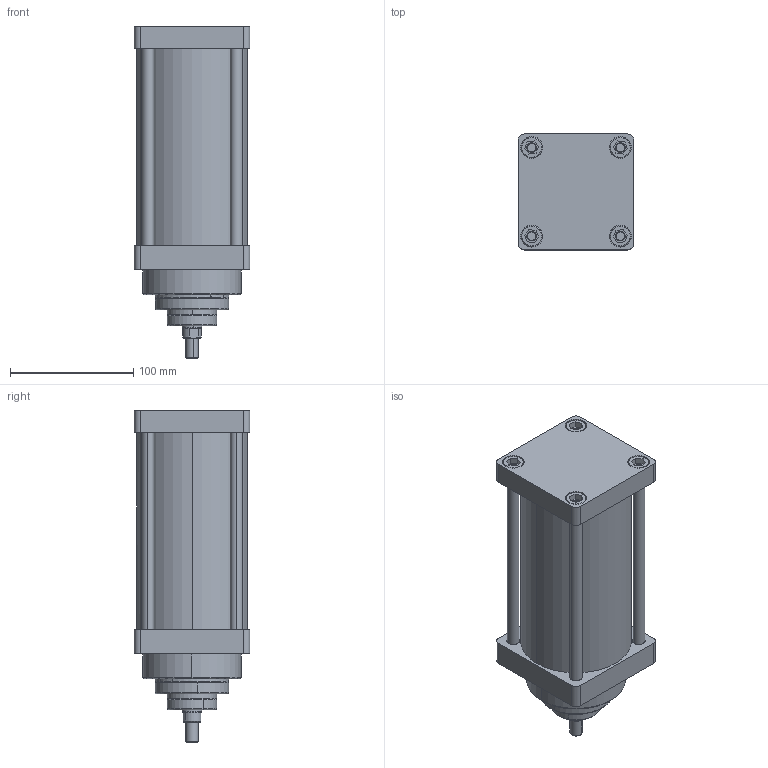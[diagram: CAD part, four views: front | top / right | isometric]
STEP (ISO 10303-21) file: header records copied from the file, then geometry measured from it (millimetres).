
FILE_DESCRIPTION (( 'STEP AP214' ), '1' );
FILE_NAME ('TLSK_3K_80_300.STEP', '2023-01-07T17:05:25', ( '' ), ( '' ), 'SwSTEP 2.0', 'SolidWorks 2021', '' );
FILE_SCHEMA (( 'AUTOMOTIVE_DESIGN' ));
Length unit declared in the file: millimetre
Products named in the file (19): Kastas Seals-KO-32X2_5; 40_35_boru_WEB; 63_1600_50boru_kapak_teleskopik; 63_ON_KAPAK_OZEL; pap_40_44_12; pap_60_65_12; 63_400_26boru_kapak_otto; M8_SAPLAMA_100_WEB; KO-54X3; 16_18_PAP_16_18_10_PAP; K103-060; 80_90_alm_boru_WEB; 63_ARKA_KAPAK_OZEL; TLSK_3K_80_300; K52-16X20_5X3_6-4_8; CIVATA_WEB; 16_K_M尳_WEB; K103-040; 56_60_alm.boru_WEB
Assembly tree (28 placements, depth 2):
  TLSK_3K_80_300
    40_35_boru_WEB
    16_K_M尳_WEB
    63_400_26boru_kapak_otto
    Kastas Seals-KO-32X2_5
    63_ON_KAPAK_OZEL
    63_ARKA_KAPAK_OZEL
    56_60_alm.boru_WEB
    63_1600_50boru_kapak_teleskopik
    K103-060
    pap_40_44_12
    pap_60_65_12
    K103-040
    KO-54X3
    80_90_alm_boru_WEB
    16_18_PAP_16_18_10_PAP
    K52-16X20_5X3_6-4_8
    M8_SAPLAMA_100_WEB  x4
    CIVATA_WEB  x8
Bounding box: 94 x 94 x 269.67 mm (x, y, z)
Volume: 760607.4 mm3; surface area: 366998.3 mm2
Topology: 28 solids, 28 shells, 1126 faces, 2696 edges, 1720 vertices
Faces by surface type: cylinder 383, plane 332, bspline 222, cone 167, torus 22
Entity records: 58600 total; most frequent: CARTESIAN_POINT 37799, ORIENTED_EDGE 4416, DIRECTION 3438, EDGE_CURVE 2208, VERTEX_POINT 1418, AXIS2_PLACEMENT_3D 1272, EDGE_LOOP 1026, LINE 894
